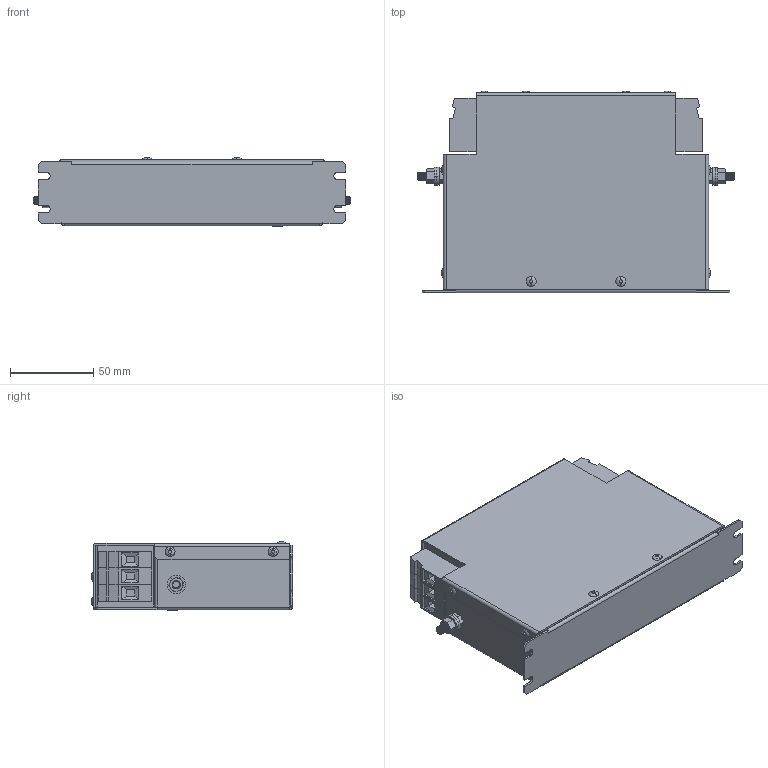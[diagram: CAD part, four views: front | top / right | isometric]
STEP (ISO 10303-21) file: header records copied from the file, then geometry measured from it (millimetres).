
FILE_DESCRIPTION (( 'STEP AP203' ), '1' );
FILE_NAME ('NF-CF-10 (A size).STEP', '2025-02-26T17:23:27', ( '' ), ( '' ), 'SwSTEP 2.0', 'SolidWorks 2017', '' );
FILE_SCHEMA (( 'CONFIG_CONTROL_DESIGN' ));
Length unit declared in the file: millimetre
Products named in the file (11): M5x20 Earth post; 3.5mm Rivet; VDFK6x3; hex nut style 1_am_B18.2.4.1M - Hex nut, Style 1,  M5 x 0.8 --D-N; NF-CF-10 (A case); M4 Hank; flat washer narrow_am_B18.22M - Plain washer, 5 mm, narrow; VDFK-6; NF-CF-10 (A lid); NF-CF-10 (A size); hex screw_am_B18.6.7M - M5 x 0.8 x 13 Indented HHMS --13S
Assembly tree (24 placements, depth 3):
  NF-CF-10 (A size)
    NF-CF-10 (A case)
    NF-CF-10 (A lid)
    VDFK6x3  x2
      VDFK-6
    M5x20 Earth post  x2
      flat washer narrow_am_B18.22M - Plain washer, 5 mm, narrow
      hex nut style 1_am_B18.2.4.1M - Hex nut, Style 1,  M5 x 0.8 --D-N
      hex screw_am_B18.6.7M - M5 x 0.8 x 13 Indented HHMS --13S
    3.5mm Rivet  x10
    M4 Hank
Bounding box: 190.6 x 121 x 41.3 mm (x, y, z)
Volume: 102652.2 mm3; surface area: 141343 mm2
Topology: 27 solids, 27 shells, 995 faces, 2364 edges, 1462 vertices
Faces by surface type: plane 507, cylinder 266, cone 202, torus 20
Entity records: 15038 total; most frequent: DIRECTION 2455, CARTESIAN_POINT 2427, ORIENTED_EDGE 2218, EDGE_CURVE 1109, AXIS2_PLACEMENT_3D 896, VERTEX_POINT 676, LINE 663, VECTOR 663
